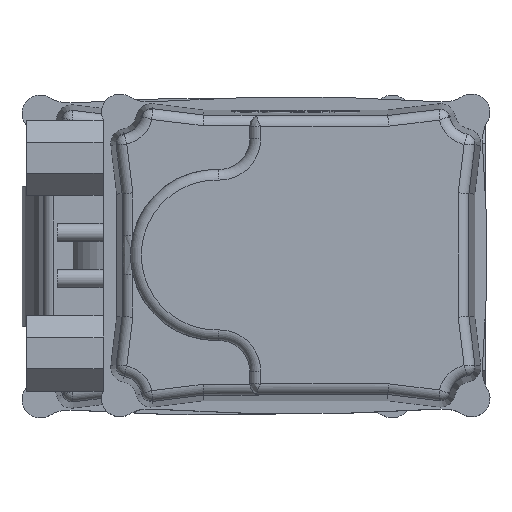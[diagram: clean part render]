
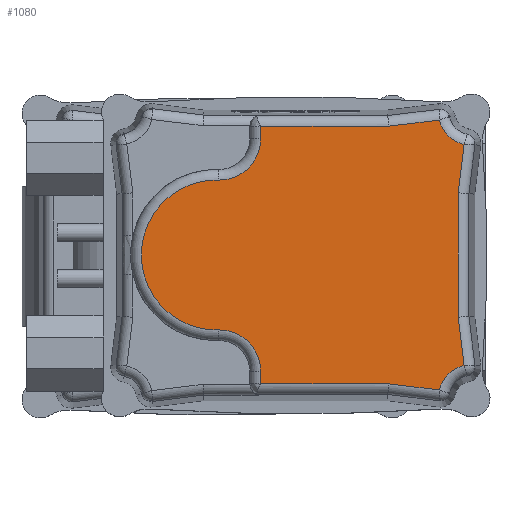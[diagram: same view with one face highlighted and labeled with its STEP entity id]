
A CAD part, top view. The second image highlights one B-rep face of the part: STEP entity #1080.
In plain terms, the highlighted planar face has unit normal (0, 0, 1).
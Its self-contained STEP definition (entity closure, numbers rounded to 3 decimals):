
#1080 = ADVANCED_FACE( '', ( #2519 ), #2520, .T. );
#2519 = FACE_OUTER_BOUND( '', #5900, .T. );
#2520 = PLANE( '', #5901 );
#5900 = EDGE_LOOP( '', ( #11757, #11758, #11759, #11760, #11761, #11762, #11763, #11764, #11765, #11766, #11767, #11768, #11769, #11770, #11771, #11772 ) );
#5901 = AXIS2_PLACEMENT_3D( '', #11773, #11774, #11775 );
#11757 = ORIENTED_EDGE( '', *, *, #16043, .T. );
#11758 = ORIENTED_EDGE( '', *, *, #15664, .T. );
#11759 = ORIENTED_EDGE( '', *, *, #15442, .T. );
#11760 = ORIENTED_EDGE( '', *, *, #16044, .T. );
#11761 = ORIENTED_EDGE( '', *, *, #15787, .T. );
#11762 = ORIENTED_EDGE( '', *, *, #15945, .T. );
#11763 = ORIENTED_EDGE( '', *, *, #15844, .T. );
#11764 = ORIENTED_EDGE( '', *, *, #14892, .T. );
#11765 = ORIENTED_EDGE( '', *, *, #15483, .T. );
#11766 = ORIENTED_EDGE( '', *, *, #16045, .T. );
#11767 = ORIENTED_EDGE( '', *, *, #16046, .T. );
#11768 = ORIENTED_EDGE( '', *, *, #15925, .T. );
#11769 = ORIENTED_EDGE( '', *, *, #15293, .T. );
#11770 = ORIENTED_EDGE( '', *, *, #16047, .T. );
#11771 = ORIENTED_EDGE( '', *, *, #15637, .T. );
#11772 = ORIENTED_EDGE( '', *, *, #15025, .T. );
#11773 = CARTESIAN_POINT( '', ( 47.227, -44.578, 84. ) );
#11774 = DIRECTION( '', ( 0., 0., 1. ) );
#11775 = DIRECTION( '', ( 1., 0., 0. ) );
#14892 = EDGE_CURVE( '', #16823, #16821, #16824, .F. );
#15025 = EDGE_CURVE( '', #17054, #17058, #17060, .T. );
#15293 = EDGE_CURVE( '', #17516, #17520, #17522, .T. );
#15442 = EDGE_CURVE( '', #17782, #17780, #17783, .F. );
#15483 = EDGE_CURVE( '', #16821, #17848, #17850, .T. );
#15637 = EDGE_CURVE( '', #18086, #17054, #18092, .F. );
#15664 = EDGE_CURVE( '', #18124, #17782, #18129, .T. );
#15787 = EDGE_CURVE( '', #18321, #18319, #18322, .T. );
#15844 = EDGE_CURVE( '', #18400, #16823, #18401, .T. );
#15925 = EDGE_CURVE( '', #18515, #17516, #18516, .T. );
#15945 = EDGE_CURVE( '', #18319, #18400, #18545, .T. );
#16043 = EDGE_CURVE( '', #17058, #18124, #18683, .T. );
#16044 = EDGE_CURVE( '', #17780, #18321, #18684, .T. );
#16045 = EDGE_CURVE( '', #17848, #18685, #18686, .F. );
#16046 = EDGE_CURVE( '', #18685, #18515, #18687, .T. );
#16047 = EDGE_CURVE( '', #17520, #18086, #18688, .T. );
#16821 = VERTEX_POINT( '', #19637 );
#16823 = VERTEX_POINT( '', #19639 );
#16824 = CIRCLE( '', #19640, 13.5 );
#17054 = VERTEX_POINT( '', #20189 );
#17058 = VERTEX_POINT( '', #20211 );
#17060 = LINE( '', #20213, #20214 );
#17516 = VERTEX_POINT( '', #21669 );
#17520 = VERTEX_POINT( '', #21695 );
#17522 = LINE( '', #21697, #21698 );
#17780 = VERTEX_POINT( '', #22176 );
#17782 = VERTEX_POINT( '', #22197 );
#17783 = CIRCLE( '', #22198, 10.907 );
#17848 = VERTEX_POINT( '', #22414 );
#17850 = CIRCLE( '', #22416, 24.5 );
#18086 = VERTEX_POINT( '', #23353 );
#18092 = CIRCLE( '', #23399, 10.907 );
#18124 = VERTEX_POINT( '', #23527 );
#18129 = LINE( '', #23550, #23551 );
#18319 = VERTEX_POINT( '', #24260 );
#18321 = VERTEX_POINT( '', #24283 );
#18322 = LINE( '', #24284, #24285 );
#18400 = VERTEX_POINT( '', #24785 );
#18401 = LINE( '', #24786, #24787 );
#18515 = VERTEX_POINT( '', #25224 );
#18516 = CIRCLE( '', #25225, 0.5 );
#18545 = CIRCLE( '', #25262, 0.5 );
#18683 = LINE( '', #25605, #25606 );
#18684 = LINE( '', #25607, #25608 );
#18685 = VERTEX_POINT( '', #25609 );
#18686 = CIRCLE( '', #25610, 13.5 );
#18687 = LINE( '', #25611, #25612 );
#18688 = LINE( '', #25613, #25614 );
#19637 = CARTESIAN_POINT( '', ( 25.355, -24.492, 84. ) );
#19639 = CARTESIAN_POINT( '', ( 11.5, -37.987, 84. ) );
#19640 = AXIS2_PLACEMENT_3D( '', #27834, #27835, #27836 );
#20189 = CARTESIAN_POINT( '', ( -55.033, 36.126, 84. ) );
#20211 = CARTESIAN_POINT( '', ( -53.093, 20.331, 84. ) );
#20213 = CARTESIAN_POINT( '', ( -43.752, -55.749, 84. ) );
#20214 = VECTOR( '', #27995, 1000. );
#21669 = CARTESIAN_POINT( '', ( 11.491, 42.093, 84. ) );
#21695 = CARTESIAN_POINT( '', ( -30.331, 42.093, 84. ) );
#21697 = CARTESIAN_POINT( '', ( 47.227, 42.093, 84. ) );
#21698 = VECTOR( '', #28305, 1000. );
#22176 = CARTESIAN_POINT( '', ( -46.913, -44.129, 84. ) );
#22197 = CARTESIAN_POINT( '', ( -55.033, -36.126, 84. ) );
#22198 = AXIS2_PLACEMENT_3D( '', #28496, #28497, #28498 );
#22414 = CARTESIAN_POINT( '', ( 25.355, 24.492, 84. ) );
#22416 = AXIS2_PLACEMENT_3D( '', #28527, #28528, #28529 );
#23353 = CARTESIAN_POINT( '', ( -46.913, 44.129, 84. ) );
#23399 = AXIS2_PLACEMENT_3D( '', #28639, #28640, #28641 );
#23527 = CARTESIAN_POINT( '', ( -53.093, -20.331, 84. ) );
#23550 = CARTESIAN_POINT( '', ( -54.536, -32.083, 84. ) );
#23551 = VECTOR( '', #28665, 1000. );
#24260 = CARTESIAN_POINT( '', ( 11.491, -42.093, 84. ) );
#24283 = CARTESIAN_POINT( '', ( -30.331, -42.093, 84. ) );
#24284 = CARTESIAN_POINT( '', ( 47.227, -42.093, 84. ) );
#24285 = VECTOR( '', #28786, 1000. );
#24785 = CARTESIAN_POINT( '', ( 11.5, -42., 84. ) );
#24786 = CARTESIAN_POINT( '', ( 11.5, -44.578, 84. ) );
#24787 = VECTOR( '', #28834, 1000. );
#25224 = CARTESIAN_POINT( '', ( 11.5, 42., 84. ) );
#25225 = AXIS2_PLACEMENT_3D( '', #28900, #28901, #28902 );
#25262 = AXIS2_PLACEMENT_3D( '', #28929, #28930, #28931 );
#25605 = CARTESIAN_POINT( '', ( -53.093, -44.578, 84. ) );
#25606 = VECTOR( '', #29020, 1000. );
#25607 = CARTESIAN_POINT( '', ( 45.775, -32.749, 84. ) );
#25608 = VECTOR( '', #29021, 1000. );
#25609 = CARTESIAN_POINT( '', ( 11.5, 37.987, 84. ) );
#25610 = AXIS2_PLACEMENT_3D( '', #29022, #29023, #29024 );
#25611 = CARTESIAN_POINT( '', ( 11.5, -44.578, 84. ) );
#25612 = VECTOR( '', #29025, 1000. );
#25613 = CARTESIAN_POINT( '', ( 56.559, 31.425, 84. ) );
#25614 = VECTOR( '', #29026, 1000. );
#27834 = CARTESIAN_POINT( '', ( 25., -37.987, 84. ) );
#27835 = DIRECTION( '', ( 0., 0., 1. ) );
#27836 = DIRECTION( '', ( 1., 0., 0. ) );
#27995 = DIRECTION( '', ( 0.122, -0.993, 0. ) );
#28305 = DIRECTION( '', ( -1., 0., 0. ) );
#28496 = CARTESIAN_POINT( '', ( -57.5, -46.75, 84. ) );
#28497 = DIRECTION( '', ( 0., 0., 1. ) );
#28498 = DIRECTION( '', ( 1., 0., 0. ) );
#28527 = CARTESIAN_POINT( '', ( 26., 0., 84. ) );
#28528 = DIRECTION( '', ( 0., 0., 1. ) );
#28529 = DIRECTION( '', ( 1., 0., 0. ) );
#28639 = CARTESIAN_POINT( '', ( -57.5, 46.75, 84. ) );
#28640 = DIRECTION( '', ( 0., 0., 1. ) );
#28641 = DIRECTION( '', ( 1., 0., 0. ) );
#28665 = DIRECTION( '', ( -0.122, -0.993, 0. ) );
#28786 = DIRECTION( '', ( 1., 0., 0. ) );
#28834 = DIRECTION( '', ( 0., 1., 0. ) );
#28900 = CARTESIAN_POINT( '', ( 11., 42., 84. ) );
#28901 = DIRECTION( '', ( 0., 0., 1. ) );
#28902 = DIRECTION( '', ( 1., 0., 0. ) );
#28929 = CARTESIAN_POINT( '', ( 11., -42., 84. ) );
#28930 = DIRECTION( '', ( 0., 0., 1. ) );
#28931 = DIRECTION( '', ( 1., 0., 0. ) );
#29020 = DIRECTION( '', ( 0., -1., 0. ) );
#29021 = DIRECTION( '', ( 0.993, 0.122, 0. ) );
#29022 = CARTESIAN_POINT( '', ( 25., 37.987, 84. ) );
#29023 = DIRECTION( '', ( 0., 0., 1. ) );
#29024 = DIRECTION( '', ( 1., 0., 0. ) );
#29025 = DIRECTION( '', ( 0., 1., 0. ) );
#29026 = DIRECTION( '', ( -0.993, 0.122, 0. ) );
